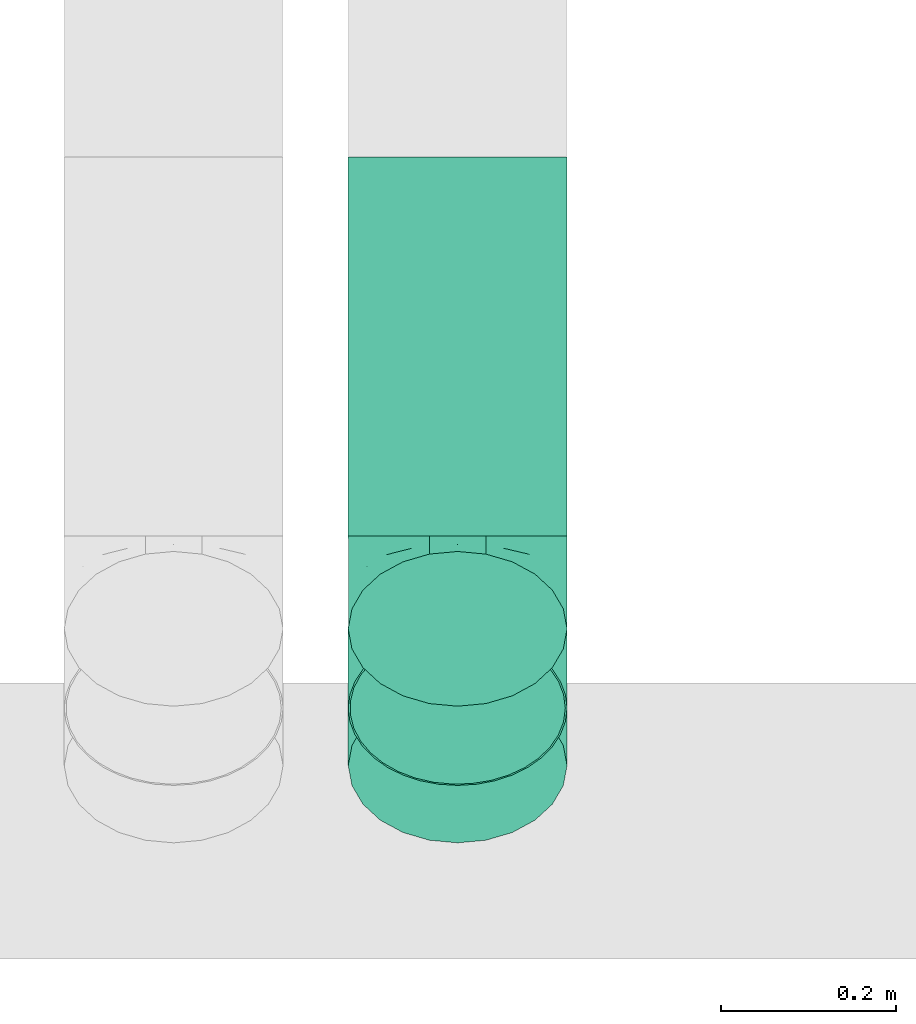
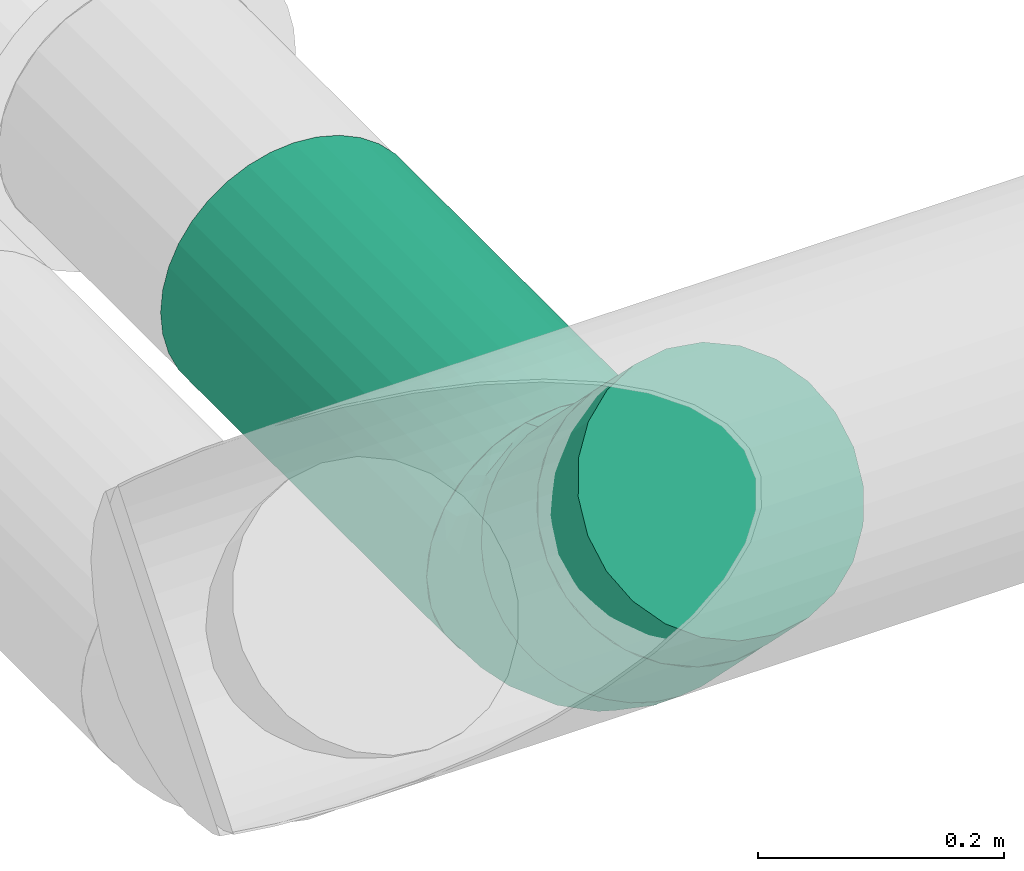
# One storey, part 12 of 36: 2 flow fittings, 2 flow segments.
"""IFC2X3 building model written with IfcOpenShell, lengths in millimetres."""

from ifc_helpers import new_model, entity, si_unit, converted_unit, derived_unit, direction, frame, origin_with_axes, origin_2d_with_axis, place, context, subcontext, project, spatial, hollow_circle, extrude, open_shell, surface_model, source, transform, mapped, type_object, element, save


model = new_model("IFC2X3")

# Units and contexts
model_context = context("Model", 3, precision=0.01, world=frame((0.0, 4.29681676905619e-09, 0.0)), true_north=direction((4.01073788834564e-13, 1.0)))
plan_context = context("Plan", 3, precision=0.01, world=frame((0.0, 4.29681676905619e-09, 0.0)), true_north=direction((4.01073788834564e-13, 1.0)))
body_context = subcontext(model_context, "Body", "Model", "MODEL_VIEW")
ifc_project = project(units=[converted_unit("PLANEANGLEUNIT", "DEGREE", entity("IfcPositiveLengthMeasure", 0.0174532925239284), si_unit("PLANEANGLEUNIT", "RADIAN"), dimensions=[0, 0, 0, 0, 0, 0, 0]), si_unit("AREAUNIT", "SQUARE_METRE"), si_unit("LENGTHUNIT", "METRE", prefix="MILLI"), si_unit("MASSUNIT", "GRAM", prefix="KILO"), si_unit("POWERUNIT", "WATT"), si_unit("PRESSUREUNIT", "PASCAL"), si_unit("FORCEUNIT", "NEWTON", prefix="KILO"), si_unit("ELECTRICCURRENTUNIT", "AMPERE"), si_unit("THERMODYNAMICTEMPERATUREUNIT", "DEGREE_CELSIUS"), si_unit("TIMEUNIT", "SECOND"), si_unit("VOLUMEUNIT", "CUBIC_METRE"), derived_unit("LINEARVELOCITYUNIT", [(si_unit("LENGTHUNIT", "METRE"), 1), (si_unit("TIMEUNIT", "SECOND"), -1)]), derived_unit("VOLUMETRICFLOWRATEUNIT", [(si_unit("VOLUMEUNIT", "CUBIC_METRE"), 1), (si_unit("TIMEUNIT", "SECOND"), -1)]), derived_unit("THERMALTRANSMITTANCEUNIT", [(si_unit("POWERUNIT", "WATT"), 1), (si_unit("THERMODYNAMICTEMPERATUREUNIT", "KELVIN"), -1), (si_unit("AREAUNIT", "SQUARE_METRE"), -1)])], contexts=[model_context, plan_context])

# Site, building, storey
site_placement = place(None, frame((0.0, -4.29681676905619e-09, 0.0), z_axis=(0.0, 0.0, 1.0), x_axis=(1.0, 0.0, 0.0)))
site = spatial("IfcSite", under=ifc_project, at=site_placement, CompositionType="ELEMENT")
building_placement = place(site_placement, frame((0.0, 4.29681676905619e-09, 0.0), z_axis=(0.0, 0.0, 1.0), x_axis=(1.0, 0.0, 0.0)))
building = spatial("IfcBuilding", under=site, at=building_placement, Name="mc-building", CompositionType="ELEMENT")
storey_placement = place(building_placement, frame((0.0, 0.0, 204000.0), z_axis=(0.0, 0.0, 1.0), x_axis=(1.0, 0.0, 0.0)))
storey = spatial("IfcBuildingStorey", under=building, at=storey_placement, Name="Nivå D", CompositionType="ELEMENT", Elevation=204000.0)

# Flow fittings
duct_fitting_type_1 = type_object("IfcDuctFittingType", Name="magicirc_elbow_short_001", PredefinedType="BEND")
shared_shape_1 = source(origin_with_axes(), body_context, "Body", "SurfaceModel", [
    surface_model("IfcShellBasedSurfaceModel", [(-62.13204, 0.0, -125.0), (-62.13204, -32.35238, -120.74073), (-62.13204, 32.35238, -120.74073), (-62.13204, 62.5, -108.25318), (-62.13204, 88.38835, -88.38835), (-62.13204, 108.25318, -62.5), (-62.13204, 120.74073, -32.35238), (-62.13204, -62.5, -108.25318), (-62.13204, -88.38835, -88.38835), (-62.13204, -125.0, 0.0), (-62.13204, -108.25318, -62.5), (-62.13204, -120.74073, -32.35238), (-62.13204, 125.0, 0.0), (-62.13204, -120.74073, 32.35238), (-62.13204, 120.74073, 32.35238), (-62.13204, 108.25318, 62.5), (-62.13204, 32.35238, 120.74073), (-62.13204, 62.5, 108.25318), (-62.13204, 88.38835, 88.38835), (-62.13204, -88.38835, 88.38835), (-62.13204, -108.25318, 62.5), (-62.13204, -32.35238, 120.74073), (-62.13204, 0.0, 125.0), (-62.13204, -62.5, 108.25318), (-32.61257, 120.48054, -62.5), (43.93398, 43.93398, -125.0), (21.05739, 66.81057, -120.74073), (-18.56602, 106.43398, -88.38835), (-0.26019, 88.12816, -108.25318), (132.32233, -44.45436, 0.0), (-44.45436, 132.32233, 0.0), (88.12816, -0.26019, -108.25318), (66.81057, 21.05739, -120.74073), (106.43398, -18.56602, -88.38835), (129.31057, -41.44261, -32.35238), (120.48054, -32.61257, -62.5), (-41.44261, 129.31057, -32.35238), (-41.44261, 129.31057, 32.35238), (-32.61257, 120.48054, 62.5), (-18.56602, 106.43398, 88.38835), (-0.26019, 88.12816, 108.25318), (21.05739, 66.81057, 120.74073), (43.93398, 43.93398, 125.0), (129.31057, -41.44261, 32.35238), (106.43398, -18.56602, 88.38835), (120.48054, -32.61257, 62.5), (88.12816, -0.26019, 108.25318), (66.81057, 21.05739, 120.74073), (-39.32094, -100.77129, 72.52866), (-25.3983, -115.58366, 40.92131), (-9.38975, -99.61313, 67.6303), (-31.08244, -121.94188, 0.0), (-8.4822, -119.71595, 0.0), (-40.71594, 99.20513, 81.38635), (35.22622, 7.0983, 122.8817), (11.13029, 29.36587, 124.68547), (6.93461, -16.74165, 121.22697), (-25.98216, -78.69804, 94.74513), (-17.69423, -50.99343, 111.83063), (2.27359, -83.55864, 84.32151), (-3.43912, -67.17105, 100.02812), (-29.92798, -19.88945, 122.8817), (77.07668, -63.79757, 67.63031), (37.22525, -89.79474, 60.1728), (61.92349, -89.5906, 35.66993), (-28.63512, 12.8945, 124.68547), (-43.55871, 45.16564, 117.17454), (-19.1971, 46.34588, 119.14586), (20.11216, -107.05726, 35.36285), (-42.64489, 65.81413, 107.6176), (18.18237, -43.89615, 109.72868), (-52.56495, 126.90301, 0.0), (-48.14682, 116.23669, 52.46898), (99.6893, -63.77069, 40.92131), (43.10591, -104.06687, 0.0), (48.5695, -23.5461, 111.83062), (99.06017, -43.45196, 72.52866), (74.02008, -37.27576, 94.74513), (46.20365, -49.09439, 98.73245), (108.20454, -64.24733, 0.0), (17.31186, -111.89141, 0.0), (-1.13628, 62.73759, 117.17454), (-27.44697, 77.92943, 103.54984), (29.58221, -71.41779, 87.09722), (90.64978, -78.65415, 0.0), (66.87784, -91.36051, 0.0), (19.5636, -107.13664, -35.66992), (-25.3983, -115.58366, -40.92131), (11.13029, 29.36586, -124.68547), (-28.63512, 12.89449, -124.68547), (-29.92797, -19.88945, -122.8817), (-41.3581, 98.93914, -81.38635), (-35.69649, 74.51237, -103.54983), (-19.1971, 46.34588, -119.14586), (-43.55871, 45.16564, -117.17454), (2.04406, -67.38589, -98.73245), (-9.38975, -99.61313, -67.63031), (-25.98216, -78.69804, -94.74513), (48.5695, -23.54609, -111.83063), (-48.14682, 116.23669, -52.46898), (-39.32094, -100.77129, -72.52866), (-16.38313, 76.69211, -107.6176), (-17.69423, -50.99343, -111.83063), (61.47947, -89.92235, -35.36286), (6.93461, -16.74165, -121.22697), (18.18238, -43.89615, -109.72868), (57.47721, -60.69254, -84.32152), (74.02008, -37.27576, -94.74513), (77.07668, -63.79756, -67.63031), (37.17222, -89.8167, -60.1728), (29.58221, -71.41778, -87.09723), (99.6893, -63.77069, -40.92131), (-1.13628, 62.73759, -117.17454), (35.22623, 7.0983, -122.8817), (99.06017, -43.45196, -72.52866), (49.92892, -45.06528, -100.02812)], [open_shell([[[0, 1, 2]], [[3, 2, 4]], [[1, 5, 2]], [[4, 2, 5]], [[5, 1, 6]], [[7, 8, 1]], [[9, 1, 8]], [[10, 11, 8]], [[9, 8, 11]], [[9, 6, 1]], [[9, 12, 6]], [[12, 13, 14]], [[15, 14, 16]], [[16, 17, 18]], [[15, 16, 18]], [[16, 14, 19]], [[20, 19, 13]], [[19, 14, 13]], [[21, 22, 23]], [[19, 23, 22]], [[19, 22, 16]], [[9, 13, 12]], [[24, 25, 26]], [[27, 26, 28]], [[25, 24, 29]], [[24, 26, 27]], [[30, 29, 24]], [[25, 31, 32]], [[25, 33, 31]], [[33, 34, 35]], [[34, 33, 29]], [[25, 29, 33]], [[24, 36, 30]], [[30, 37, 38]], [[30, 38, 39]], [[39, 40, 41]], [[39, 41, 30]], [[30, 41, 42]], [[43, 44, 45]], [[29, 44, 43]], [[46, 42, 47]], [[44, 29, 46]], [[42, 46, 30]], [[29, 30, 46]], [[48, 49, 50]], [[51, 52, 49]], [[53, 39, 38]], [[54, 55, 56]], [[23, 57, 58]], [[59, 60, 57]], [[49, 20, 13]], [[56, 61, 58]], [[21, 61, 22]], [[21, 23, 58]], [[62, 63, 64]], [[23, 19, 57]], [[16, 22, 65]], [[66, 65, 67]], [[50, 68, 63]], [[69, 17, 66]], [[66, 17, 16]], [[70, 56, 58]], [[61, 65, 22]], [[71, 14, 37]], [[68, 64, 63]], [[71, 12, 14]], [[14, 15, 72]], [[62, 64, 73]], [[69, 53, 18]], [[48, 19, 20]], [[68, 50, 49]], [[68, 74, 64]], [[75, 47, 54]], [[65, 55, 67]], [[76, 45, 44]], [[47, 75, 46]], [[55, 65, 56]], [[45, 76, 73]], [[45, 73, 43]], [[75, 77, 46]], [[78, 62, 77]], [[73, 79, 43]], [[68, 52, 80]], [[41, 40, 81]], [[69, 18, 17]], [[39, 53, 82]], [[63, 62, 83]], [[37, 72, 38]], [[49, 13, 51]], [[30, 71, 37]], [[64, 84, 73]], [[82, 67, 81]], [[64, 74, 85]], [[39, 82, 40]], [[42, 54, 47]], [[42, 41, 55]], [[55, 41, 81]], [[56, 70, 75]], [[48, 57, 19]], [[46, 77, 44]], [[59, 57, 50]], [[64, 85, 84]], [[78, 77, 75]], [[76, 77, 62]], [[72, 53, 38]], [[18, 53, 15]], [[58, 61, 21]], [[65, 61, 56]], [[55, 54, 42]], [[75, 54, 56]], [[13, 9, 51]], [[79, 73, 84]], [[79, 29, 43]], [[63, 83, 59]], [[14, 72, 37]], [[53, 72, 15]], [[65, 66, 16]], [[69, 67, 82]], [[67, 69, 66]], [[69, 82, 53]], [[82, 81, 40]], [[55, 81, 67]], [[49, 48, 20]], [[57, 48, 50]], [[77, 76, 44]], [[73, 76, 62]], [[60, 58, 57]], [[78, 70, 83]], [[52, 68, 49]], [[80, 74, 68]], [[63, 59, 50]], [[83, 70, 60]], [[83, 60, 59]], [[70, 58, 60]], [[70, 78, 75]], [[62, 78, 83]], [[86, 52, 87]], [[26, 25, 88]], [[0, 2, 89]], [[90, 1, 0]], [[4, 91, 92]], [[88, 89, 93]], [[94, 92, 93]], [[10, 87, 11]], [[3, 4, 92]], [[95, 96, 97]], [[32, 31, 98]], [[99, 6, 36]], [[87, 10, 100]], [[101, 27, 28]], [[87, 51, 11]], [[34, 29, 79]], [[97, 7, 102]], [[103, 84, 85]], [[1, 90, 102]], [[86, 74, 80]], [[96, 86, 87]], [[8, 100, 10]], [[7, 1, 102]], [[97, 8, 7]], [[104, 105, 102]], [[90, 89, 104]], [[6, 12, 71]], [[106, 107, 108]], [[71, 30, 36]], [[109, 96, 110]], [[111, 34, 79]], [[36, 24, 99]], [[112, 101, 28]], [[31, 33, 107]], [[2, 3, 94]], [[94, 89, 2]], [[111, 35, 34]], [[101, 91, 27]], [[4, 5, 91]], [[112, 88, 93]], [[98, 104, 113]], [[114, 33, 35]], [[107, 106, 115]], [[98, 31, 107]], [[28, 26, 112]], [[25, 32, 113]], [[108, 114, 111]], [[105, 104, 98]], [[111, 79, 84]], [[103, 86, 109]], [[89, 88, 104]], [[103, 108, 111]], [[108, 103, 109]], [[113, 88, 25]], [[86, 80, 52]], [[71, 36, 6]], [[114, 107, 33]], [[103, 74, 86]], [[95, 97, 102]], [[100, 97, 96]], [[99, 91, 5]], [[27, 91, 24]], [[89, 90, 0]], [[102, 90, 104]], [[98, 113, 32]], [[88, 113, 104]], [[51, 87, 52]], [[51, 9, 11]], [[96, 109, 86]], [[109, 110, 106]], [[91, 99, 24]], [[6, 99, 5]], [[92, 94, 3]], [[89, 94, 93]], [[88, 112, 26]], [[101, 93, 92]], [[93, 101, 112]], [[101, 92, 91]], [[111, 114, 35]], [[107, 114, 108]], [[97, 100, 8]], [[87, 100, 96]], [[115, 98, 107]], [[95, 105, 110]], [[84, 103, 111]], [[85, 74, 103]], [[109, 106, 108]], [[110, 105, 115]], [[110, 115, 106]], [[105, 98, 115]], [[105, 95, 102]], [[96, 95, 110]]])]),
])
flow_fitting_1_placement = place(storey_placement, frame((516832.18938, 413996.26875, 2614.0), z_axis=(-1.0, 0.0, 0.0), x_axis=(0.0, -1.0, 0.0)))
element("IfcFlowFitting", 1, at=flow_fitting_1_placement, inside=storey, type_object=duct_fitting_type_1, Name="magicirc_elbow_short_001", context=body_context, shape_type="MappedRepresentation", body=[
    mapped(shared_shape_1, transform((0.0, 0.0, 0.0), scale=1.0)),
])
duct_fitting_type_2 = type_object("IfcDuctFittingType", Name="magicirc_tapoutlet_001", PredefinedType="CONNECTOR")
shared_shape_2 = source(origin_with_axes(), body_context, "Body", "SurfaceModel", [
    surface_model("IfcShellBasedSurfaceModel", [(25.0, 62.5, -108.25318), (25.0, 125.0, 0.0), (25.0, 32.35238, -120.74073), (25.0, -88.38835, -88.38835), (25.0, 0.0, -125.0), (25.0, -120.74073, 32.35238), (25.0, -62.5, -108.25318), (25.0, -32.35238, -120.74073), (25.0, -108.25318, -62.5), (25.0, -120.74073, -32.35238), (25.0, -125.0, 0.0), (25.0, 108.25318, -62.5), (25.0, 120.74073, -32.35238), (25.0, 120.74073, 32.35238), (25.0, 108.25318, 62.5), (25.0, 88.38835, 88.38835), (25.0, 32.35238, 120.74073), (25.0, 62.5, 108.25318), (25.0, -62.5, 108.25318), (25.0, -88.38835, 88.38835), (25.0, -108.25318, 62.5), (25.0, 0.0, 125.0), (25.0, -32.35238, 120.74073), (0.0, 0.0, 125.0), (0.0, 32.35238, 120.74073), (0.0, 62.5, 108.25318), (0.0, 88.38835, 88.38835), (0.0, 108.25318, 62.5), (0.0, 120.74073, 32.35238), (0.0, 125.0, 0.0), (0.0, 120.74073, -32.35238), (0.0, 108.25318, -62.5), (25.0, 88.38835, -88.38835), (0.0, 88.38835, -88.38835), (0.0, 0.0, -125.0), (0.0, 32.35238, -120.74073), (0.0, 62.5, -108.25318), (0.0, -32.35238, -120.74073), (0.0, -62.5, -108.25318), (0.0, -88.38835, -88.38835), (0.0, -108.25318, -62.5), (0.0, -120.74073, -32.35238), (0.0, -125.0, 0.0), (0.0, -120.74073, 32.35238), (0.0, -108.25318, 62.5), (0.0, -88.38835, 88.38835), (0.0, -62.5, 108.25318), (0.0, -32.35238, 120.74073), (-67.77716, 0.0, -125.0), (-67.77716, -32.35238, -120.74073), (-67.77716, 32.35238, -120.74073), (-67.77716, 120.74073, 32.35238), (-67.77716, 62.5, -108.25318), (-67.77716, 88.38835, -88.38835), (-67.77716, 108.25318, -62.5), (-67.77716, -125.0, 0.0), (-67.77716, -120.74073, 32.35238), (-67.77716, -88.38835, -88.38835), (-67.77716, -62.5, -108.25318), (-67.77716, -120.74073, -32.35238), (-67.77716, -108.25318, -62.5), (-67.77716, 120.74073, -32.35238), (-67.77716, 108.25318, 62.5), (-67.77716, 62.5, 108.25318), (-67.77716, 32.35238, 120.74073), (-67.77716, 88.38835, 88.38835), (-67.77716, 0.0, 125.0), (-67.77716, -108.25318, 62.5), (-67.77716, -88.38835, 88.38835), (-67.77716, -32.35238, 120.74073), (-67.77716, -62.5, 108.25318), (-67.77716, 125.0, 0.0)], [open_shell([[[0, 1, 2]], [[3, 4, 5]], [[4, 3, 6]], [[6, 7, 4]], [[8, 5, 9]], [[5, 10, 9]], [[1, 11, 12]], [[13, 14, 4]], [[4, 14, 15]], [[16, 4, 17]], [[4, 15, 17]], [[18, 4, 16]], [[19, 20, 4]], [[16, 21, 22]], [[23, 21, 16]], [[24, 16, 17]], [[23, 16, 24]], [[25, 15, 26]], [[25, 24, 17]], [[15, 25, 17]], [[27, 14, 13]], [[28, 13, 1]], [[26, 14, 27]], [[28, 27, 13]], [[29, 28, 1]], [[14, 26, 15]], [[29, 1, 12]], [[30, 12, 11]], [[29, 12, 30]], [[31, 32, 33]], [[31, 30, 11]], [[32, 31, 11]], [[2, 4, 34]], [[0, 2, 35]], [[33, 0, 36]], [[34, 35, 2]], [[0, 35, 36]], [[0, 33, 32]], [[34, 4, 7]], [[37, 7, 6]], [[34, 7, 37]], [[38, 3, 39]], [[38, 37, 6]], [[3, 38, 6]], [[40, 8, 9]], [[41, 9, 10]], [[39, 8, 40]], [[41, 40, 9]], [[42, 41, 10]], [[8, 39, 3]], [[42, 10, 5]], [[43, 5, 20]], [[42, 5, 43]], [[44, 19, 45]], [[44, 43, 20]], [[19, 44, 20]], [[46, 18, 22]], [[47, 22, 21]], [[45, 18, 46]], [[47, 46, 22]], [[23, 47, 21]], [[18, 45, 19]], [[8, 3, 5]], [[10, 9, 5]], [[19, 4, 18]], [[16, 22, 18]], [[1, 13, 4]], [[48, 49, 50]], [[50, 51, 52]], [[53, 51, 54]], [[52, 51, 53]], [[50, 55, 56]], [[57, 55, 58]], [[50, 49, 58]], [[59, 55, 60]], [[57, 60, 55]], [[58, 55, 50]], [[61, 54, 51]], [[62, 51, 50]], [[63, 62, 50]], [[63, 50, 64]], [[65, 62, 63]], [[66, 64, 50]], [[56, 67, 50]], [[67, 68, 50]], [[69, 66, 70]], [[68, 70, 66]], [[50, 68, 66]], [[71, 61, 51]], [[66, 23, 24]], [[64, 24, 25]], [[66, 24, 64]], [[65, 25, 26]], [[63, 64, 25]], [[25, 65, 63]], [[51, 27, 28]], [[71, 28, 29]], [[65, 27, 62]], [[62, 27, 51]], [[28, 71, 51]], [[27, 65, 26]], [[71, 29, 30]], [[61, 30, 31]], [[71, 30, 61]], [[53, 31, 33]], [[54, 61, 31]], [[31, 53, 54]], [[50, 36, 35]], [[48, 35, 34]], [[53, 36, 52]], [[52, 36, 50]], [[35, 48, 50]], [[36, 53, 33]], [[48, 34, 37]], [[49, 37, 38]], [[48, 37, 49]], [[57, 38, 39]], [[58, 49, 38]], [[38, 57, 58]], [[59, 40, 41]], [[55, 41, 42]], [[57, 40, 60]], [[60, 40, 59]], [[41, 55, 59]], [[40, 57, 39]], [[55, 42, 43]], [[56, 43, 44]], [[55, 43, 56]], [[68, 44, 45]], [[67, 56, 44]], [[44, 68, 67]], [[69, 46, 47]], [[66, 47, 23]], [[68, 46, 70]], [[70, 46, 69]], [[47, 66, 69]], [[46, 68, 45]], [[2, 1, 4]], [[32, 11, 1]], [[32, 1, 0]], [[4, 6, 7]], [[4, 14, 17]], [[17, 14, 15]], [[4, 16, 18]], [[4, 20, 5]], [[14, 4, 13]], [[17, 16, 4]], [[4, 19, 20]], [[4, 18, 19]], [[21, 22, 16]], [[4, 1, 13]], [[50, 65, 62]], [[63, 65, 50]], [[50, 68, 70]], [[66, 50, 70]]])]),
])
flow_fitting_2_placement = place(storey_placement, frame((516832.18938, 413844.13807, 2766.13068), z_axis=(0.0, -0.707106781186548, -0.707106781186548), x_axis=(0.0, 0.707106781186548, -0.707106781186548)))
element("IfcFlowFitting", 2, at=flow_fitting_2_placement, inside=storey, type_object=duct_fitting_type_2, Name="magicirc_tapoutlet_001", context=body_context, shape_type="MappedRepresentation", body=[
    mapped(shared_shape_2, transform((0.0, 0.0, 0.0), scale=1.0)),
])

# Flow segments
duct_segment_type = type_object("IfcDuctSegmentType", Name="KK002T - Spiro kanaler, Forsinket stål, korte bend", PredefinedType="RIGIDSEGMENT")
shared_shape_3 = source(origin_with_axes(), body_context, "Body", "SweptSolid", [
    extrude(hollow_circle(Radius=125.0, WallThickness=2.0, at=origin_2d_with_axis()), frame((0.0, 0.0, 0.0), z_axis=(1.0, 0.0, 0.0), x_axis=(0.0, 1.0, 0.0)), (0.0, 0.0, 1.0), 432.8),
])
flow_segment_1_placement = place(storey_placement, frame((516832.18938, 414491.25, 2614.0), z_axis=(0.0, 0.0, 1.0), x_axis=(0.0, -1.0, 0.0)))
element("IfcFlowSegment", 3, at=flow_segment_1_placement, inside=storey, type_object=duct_segment_type, Name="KK002T - Spiro kanaler, Forsinket stål, korte bend", context=body_context, shape_type="MappedRepresentation", body=[
    mapped(shared_shape_3, transform((0.0, 0.0, 0.0), scale=1.0)),
])
shared_shape_4 = source(origin_with_axes(), body_context, "Body", "SweptSolid", [
    extrude(hollow_circle(Radius=125.0, WallThickness=2.0, at=origin_2d_with_axis()), frame((0.0, 0.0, 0.0), z_axis=(1.0, 0.0, 0.0), x_axis=(0.0, 1.0, 0.0)), (0.0, 0.0, 1.0), 128.0),
])
flow_segment_2_placement = place(storey_placement, frame((516832.18938, 413952.33477, 2657.93398), z_axis=(0.0, 0.707106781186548, 0.707106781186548), x_axis=(0.0, -0.707106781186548, 0.707106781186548)))
element("IfcFlowSegment", 4, at=flow_segment_2_placement, inside=storey, type_object=duct_segment_type, Name="KK002T - Spiro kanaler, Forsinket stål, korte bend", context=body_context, shape_type="MappedRepresentation", body=[
    mapped(shared_shape_4, transform((0.0, 0.0, 0.0), scale=1.0)),
])

save(model, "model.ifc")
